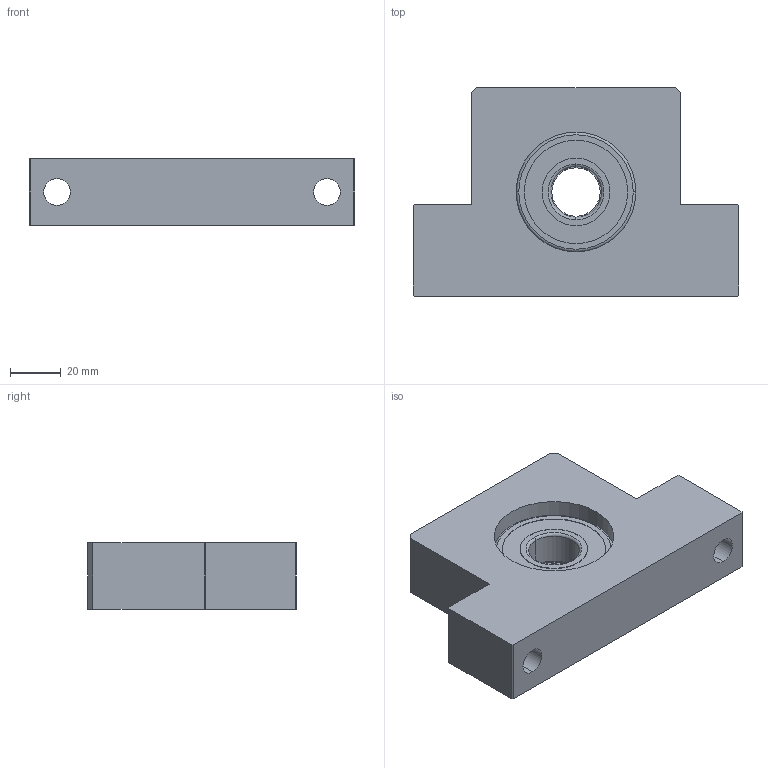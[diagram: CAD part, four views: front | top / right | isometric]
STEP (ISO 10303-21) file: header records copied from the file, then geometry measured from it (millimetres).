
FILE_DESCRIPTION (( 'STEP AP214' ), '1' );
FILE_NAME ('F-SBU-20.80.STEP', '2023-04-10T09:39:31', ( '' ), ( '' ), 'SwSTEP 2.0', 'SolidWorks 2021', '' );
FILE_SCHEMA (( 'AUTOMOTIVE_DESIGN' ));
Length unit declared in the file: millimetre
Products named in the file (9): F-SBU-20.80; 6204ZZ Shield2; F-SBU-20.80 BODY; 6204ZZ Inner ring; 6204ZZ; 6204ZZ Ball; 6204ZZ Shield1; 6204ZZ Outer ring; STWN20
Assembly tree (20 placements, depth 3):
  F-SBU-20.80
    F-SBU-20.80 BODY
    6204ZZ
      6204ZZ Shield2
      6204ZZ Ball  x13
      6204ZZ Inner ring
      6204ZZ Shield1
      6204ZZ Outer ring
    STWN20
Bounding box: 128 x 82 x 26 mm (x, y, z)
Volume: 180943.4 mm3; surface area: 43063.5 mm2
Topology: 19 solids, 19 shells, 119 faces, 304 edges, 201 vertices
Faces by surface type: cylinder 45, plane 34, sphere 26, torus 14
Entity records: 3185 total; most frequent: DIRECTION 569, CARTESIAN_POINT 472, ORIENTED_EDGE 430, AXIS2_PLACEMENT_3D 235, EDGE_CURVE 215, VERTEX_POINT 138, EDGE_LOOP 117, CIRCLE 116
